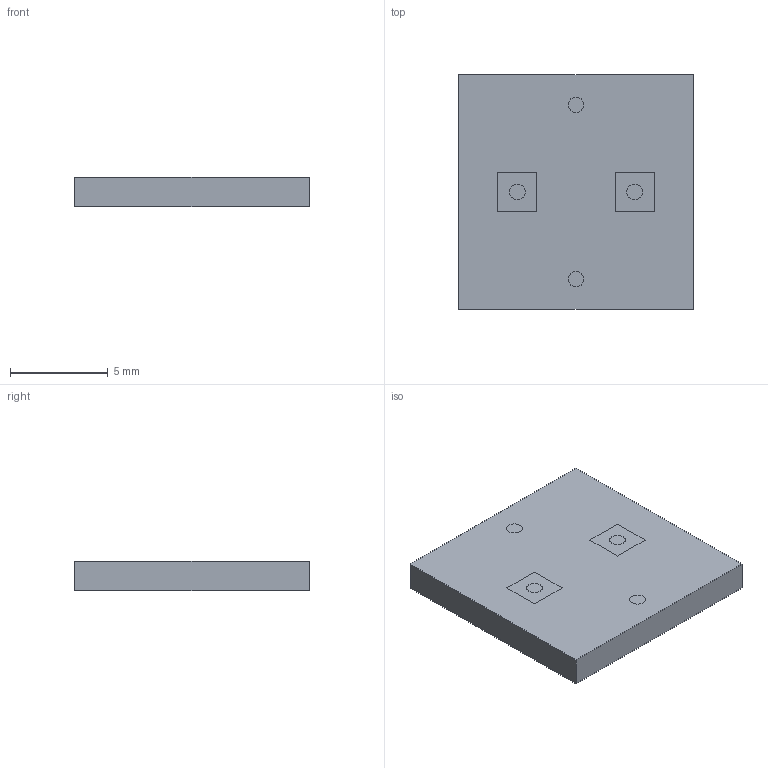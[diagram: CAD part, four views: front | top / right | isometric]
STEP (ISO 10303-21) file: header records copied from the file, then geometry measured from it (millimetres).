
FILE_DESCRIPTION(('Open CASCADE Model'),'2;1');
FILE_NAME('Open CASCADE Shape Model','2026-11-27T13:57:49',('Author'),( 'Open CASCADE'),'Open CASCADE STEP processor 7.9','Open CASCADE 7.9' ,'Unknown');
FILE_SCHEMA(('AUTOMOTIVE_DESIGN { 1 0 10303 214 1 1 1 1 }'));
Length unit declared in the file: millimetre
Products named in the file (3): manifold_N28; fluid; solid
Assembly tree (2 placements, depth 2):
  manifold_N28
    fluid
    solid
Bounding box: 12 x 12 x 1.5 mm (x, y, z)
Volume: 216 mm3; surface area: 1105.3 mm2
Topology: 2 solids, 2 shells, 882 faces, 2716 edges, 1704 vertices
Faces by surface type: plane 874, cylinder 8
Full cylindrical faces by diameter (mm): 0.8 x8
Entity records: 65530 total; most frequent: CARTESIAN_POINT 12977, DIRECTION 9414, LINE 7044, VECTOR 7044, ORIENTED_EDGE 5432, PCURVE 5432, DEFINITIONAL_REPRESENTATION 5432, EDGE_CURVE 2716
